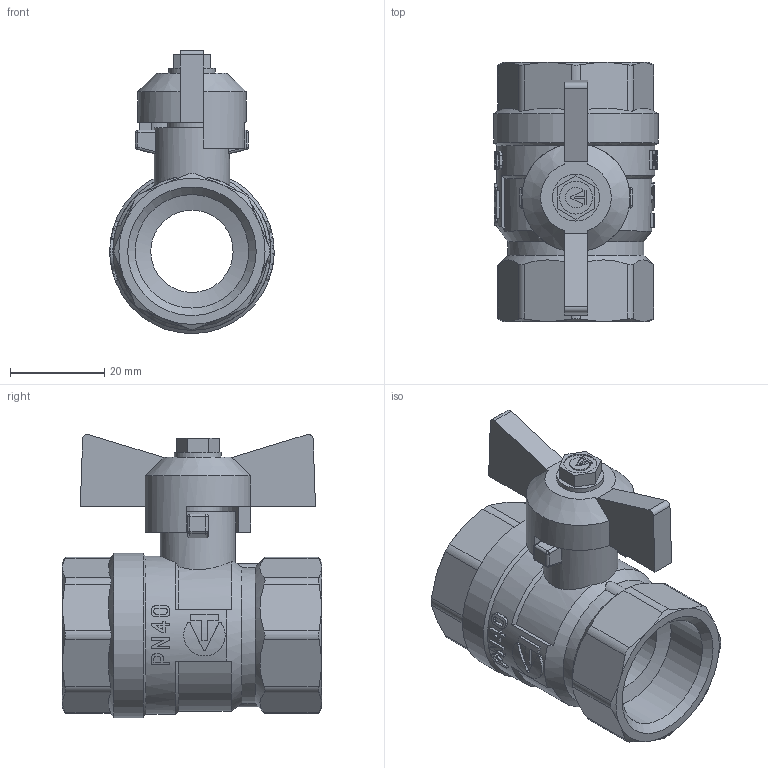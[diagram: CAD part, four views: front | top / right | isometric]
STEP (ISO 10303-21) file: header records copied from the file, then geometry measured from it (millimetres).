
FILE_DESCRIPTION(('STEP AP203'), '1');
FILE_NAME('VT.122.GN.05', '', ('UNSPECIFIED'), ('UNSPECIFIED'), 'C3D Converter', 'C3D Toolkit', '');
FILE_SCHEMA(('CONFIG_CONTROL_DESIGN'));
Length unit declared in the file: millimetre
Products named in the file (1): VT.122.GN.05
Bounding box: 34.97 x 55.1 x 60.22 mm (x, y, z)
Volume: 35392.3 mm3; surface area: 13858 mm2
Topology: 1 solids, 1 shells, 331 faces, 883 edges, 574 vertices
Faces by surface type: plane 178, cylinder 117, cone 28, sphere 8
Full cylindrical faces by diameter (mm): 7 x1, 10 x1, 10.2 x1, 16 x1, 17.5 x1, 24.118 x2, 33.6 x1, 35 x1
Entity records: 14057 total; most frequent: CARTESIAN_POINT 6162, ORIENTED_EDGE 1710, DIRECTION 1505, EDGE_CURVE 855, VERTEX_POINT 571, AXIS2_PLACEMENT_3D 536, LINE 433, VECTOR 433
